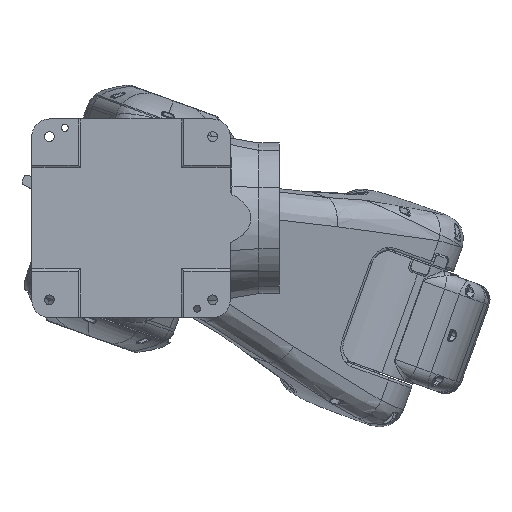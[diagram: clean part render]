
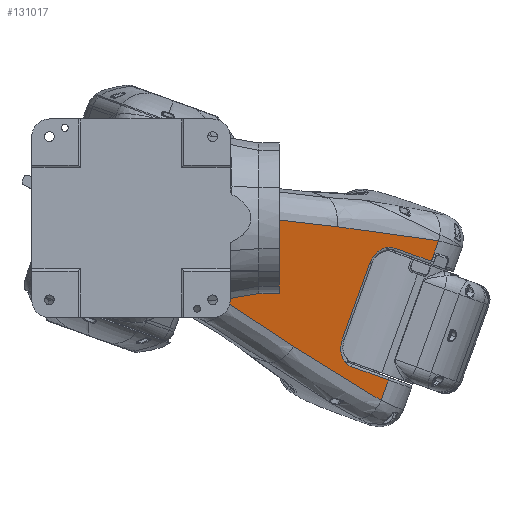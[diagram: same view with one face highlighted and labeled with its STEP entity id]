
A CAD part, front view. The second image highlights one B-rep face of the part: STEP entity #131017.
In plain terms, the highlighted planar face has unit normal (0.594, -0.775, -0.214) as drawn and (0.982, -0.188, 0) by its records, which use the part's own axes.
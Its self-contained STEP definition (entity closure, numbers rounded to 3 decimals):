
#1339 = VERTEX_POINT ( 'NONE', #69150 ) ;
#2050 = CARTESIAN_POINT ( 'NONE',  ( -7.204, 700.082, 380.356 ) ) ;
#4272 = CARTESIAN_POINT ( 'NONE',  ( -17.918, 644.038, 355.622 ) ) ;
#6263 = ORIENTED_EDGE ( 'NONE', *, *, #109266, .T. ) ;
#6711 = CARTESIAN_POINT ( 'NONE',  ( -17.918, 644.038, 212.622 ) ) ;
#7363 =( BOUNDED_CURVE ( )  B_SPLINE_CURVE ( 3, ( #26819, #77038, #109399, #108491 ),
 .UNSPECIFIED., .F., .F. ) 
 B_SPLINE_CURVE_WITH_KNOTS ( ( 4, 4 ),
 ( 1.688, 1.822 ),
 .UNSPECIFIED. ) 
 CURVE ( )  GEOMETRIC_REPRESENTATION_ITEM ( )  RATIONAL_B_SPLINE_CURVE ( ( 1., 0.999, 0.999, 1. ) ) 
 REPRESENTATION_ITEM ( '' )  );
#10586 = FACE_OUTER_BOUND ( 'NONE', #85678, .T. ) ;
#12809 = EDGE_CURVE ( 'NONE', #124880, #76747, #87875, .T. ) ;
#12930 = ORIENTED_EDGE ( 'NONE', *, *, #84356, .T. ) ;
#13997 = CARTESIAN_POINT ( 'NONE',  ( -22.889, 618.038, 329.622 ) ) ;
#14155 = ORIENTED_EDGE ( 'NONE', *, *, #94935, .F. ) ;
#14361 = VERTEX_POINT ( 'NONE', #71862 ) ;
#16911 = CARTESIAN_POINT ( 'NONE',  ( -7.204, 700.082, 380.356 ) ) ;
#17272 = ORIENTED_EDGE ( 'NONE', *, *, #27929, .F. ) ;
#18666 = CARTESIAN_POINT ( 'NONE',  ( -25.728, 603.191, 199.869 ) ) ;
#26819 = CARTESIAN_POINT ( 'NONE',  ( -55.75, 446.152, 232.427 ) ) ;
#27929 = EDGE_CURVE ( 'NONE', #67344, #100242, #121813, .T. ) ;
#30132 = CARTESIAN_POINT ( 'NONE',  ( -22.889, 618.038, 344.853 ) ) ;
#31624 =( BOUNDED_CURVE ( )  B_SPLINE_CURVE ( 3, ( #2050, #53504, #74977, #85877 ),
 .UNSPECIFIED., .F., .F. ) 
 B_SPLINE_CURVE_WITH_KNOTS ( ( 4, 4 ),
 ( 4.793, 4.963 ),
 .UNSPECIFIED. ) 
 CURVE ( )  GEOMETRIC_REPRESENTATION_ITEM ( )  RATIONAL_B_SPLINE_CURVE ( ( 1., 0.998, 0.998, 1. ) ) 
 REPRESENTATION_ITEM ( '' )  );
#31936 = CARTESIAN_POINT ( 'NONE',  ( -20.83, 628.808, 355.622 ) ) ;
#34186 = VERTEX_POINT ( 'NONE', #76502 ) ;
#35605 = CARTESIAN_POINT ( 'NONE',  ( -7.204, 700.082, 355.622 ) ) ;
#38089 = CARTESIAN_POINT ( 'NONE',  ( -22.889, 618.038, 223.392 ) ) ;
#38267 = CARTESIAN_POINT ( 'NONE',  ( -16.515, 651.38, 191.81 ) ) ;
#38669 = CARTESIAN_POINT ( 'NONE',  ( -48.676, 483.152, 340.166 ) ) ;
#38705 = CARTESIAN_POINT ( 'NONE',  ( -34.775, 555.863, 212.006 ) ) ;
#39444 = ORIENTED_EDGE ( 'NONE', *, *, #69372, .T. ) ;
#40513 = VECTOR ( 'NONE', #100798, 1000. ) ;
#43741 = EDGE_CURVE ( 'NONE', #14361, #124880, #97364, .T. ) ;
#44043 = CARTESIAN_POINT ( 'NONE',  ( -22.889, 618.038, 238.622 ) ) ;
#44921 = VERTEX_POINT ( 'NONE', #44043 ) ;
#48750 = CARTESIAN_POINT ( 'NONE',  ( -7.204, 700.082, 187.889 ) ) ;
#49166 = CARTESIAN_POINT ( 'NONE',  ( -55.75, 446.152, 335.817 ) ) ;
#50113 = ORIENTED_EDGE ( 'NONE', *, *, #73237, .T. ) ;
#50136 = CARTESIAN_POINT ( 'NONE',  ( -7.204, 700.082, 419.122 ) ) ;
#50314 = LINE ( 'NONE', #50136, #40513 ) ;
#53504 = CARTESIAN_POINT ( 'NONE',  ( -16.515, 651.38, 376.435 ) ) ;
#57759 = CARTESIAN_POINT ( 'NONE',  ( -22.889, 618.038, 238.622 ) ) ;
#57948 = CARTESIAN_POINT ( 'NONE',  ( -22.889, 618.038, 329.622 ) ) ;
#60984 =( BOUNDED_CURVE ( )  B_SPLINE_CURVE ( 3, ( #38705, #18666, #38267, #48750 ),
 .UNSPECIFIED., .F., .F. ) 
 B_SPLINE_CURVE_WITH_KNOTS ( ( 4, 4 ),
 ( 1.32, 1.49 ),
 .UNSPECIFIED. ) 
 CURVE ( )  GEOMETRIC_REPRESENTATION_ITEM ( )  RATIONAL_B_SPLINE_CURVE ( ( 1., 0.998, 0.998, 1. ) ) 
 REPRESENTATION_ITEM ( '' )  );
#62849 = DIRECTION ( 'NONE',  ( -0.188, -0.982, 0. ) ) ;
#67344 = VERTEX_POINT ( 'NONE', #16911 ) ;
#69024 = DIRECTION ( 'NONE',  ( 0., 0., 1. ) ) ;
#69150 = CARTESIAN_POINT ( 'NONE',  ( -7.204, 700.082, 212.622 ) ) ;
#69372 = EDGE_CURVE ( 'NONE', #1339, #34186, #113379, .T. ) ;
#69541 = ORIENTED_EDGE ( 'NONE', *, *, #43741, .T. ) ;
#70770 = CARTESIAN_POINT ( 'NONE',  ( -7.204, 700.082, 419.122 ) ) ;
#70880 = DIRECTION ( 'NONE',  ( -0.982, 0.188, 0. ) ) ;
#71337 = VECTOR ( 'NONE', #133174, 1000. ) ;
#71532 = CARTESIAN_POINT ( 'NONE',  ( -17.703, 645.165, 212.622 ) ) ;
#71862 = CARTESIAN_POINT ( 'NONE',  ( -34.775, 555.863, 356.238 ) ) ;
#72230 = VERTEX_POINT ( 'NONE', #4272 ) ;
#73237 = EDGE_CURVE ( 'NONE', #128637, #84783, #60984, .T. ) ;
#74372 = CARTESIAN_POINT ( 'NONE',  ( -17.918, 644.038, 355.622 ) ) ;
#74977 = CARTESIAN_POINT ( 'NONE',  ( -25.728, 603.191, 368.376 ) ) ;
#76502 = CARTESIAN_POINT ( 'NONE',  ( -17.918, 644.038, 212.622 ) ) ;
#76747 = VERTEX_POINT ( 'NONE', #114191 ) ;
#77038 = CARTESIAN_POINT ( 'NONE',  ( -48.676, 483.152, 228.078 ) ) ;
#79352 =( BOUNDED_CURVE ( )  B_SPLINE_CURVE ( 3, ( #6711, #100585, #38089, #57759 ),
 .UNSPECIFIED., .F., .F. ) 
 B_SPLINE_CURVE_WITH_KNOTS ( ( 4, 4 ),
 ( 4.712, 6.283 ),
 .UNSPECIFIED. ) 
 CURVE ( )  GEOMETRIC_REPRESENTATION_ITEM ( )  RATIONAL_B_SPLINE_CURVE ( ( 1., 0.805, 0.805, 1. ) ) 
 REPRESENTATION_ITEM ( '' )  );
#82739 = EDGE_CURVE ( 'NONE', #34186, #44921, #79352, .T. ) ;
#83386 =( BOUNDED_CURVE ( )  B_SPLINE_CURVE ( 3, ( #13997, #30132, #31936, #74372 ),
 .UNSPECIFIED., .F., .F. ) 
 B_SPLINE_CURVE_WITH_KNOTS ( ( 4, 4 ),
 ( 3.142, 4.712 ),
 .UNSPECIFIED. ) 
 CURVE ( )  GEOMETRIC_REPRESENTATION_ITEM ( )  RATIONAL_B_SPLINE_CURVE ( ( 1., 0.805, 0.805, 1. ) ) 
 REPRESENTATION_ITEM ( '' )  );
#84356 = EDGE_CURVE ( 'NONE', #72230, #100242, #87346, .T. ) ;
#84772 = EDGE_CURVE ( 'NONE', #76747, #128637, #7363, .T. ) ;
#84783 = VERTEX_POINT ( 'NONE', #118524 ) ;
#85678 = EDGE_LOOP ( 'NONE', ( #99883, #12930, #17272, #91029, #69541, #91065, #99193, #50113, #14155, #39444, #103474, #6263 ) ) ;
#85877 = CARTESIAN_POINT ( 'NONE',  ( -34.775, 555.863, 356.238 ) ) ;
#87346 = LINE ( 'NONE', #134513, #111796 ) ;
#87726 = CARTESIAN_POINT ( 'NONE',  ( -55.75, 446.152, 419.122 ) ) ;
#87875 = LINE ( 'NONE', #87726, #125449 ) ;
#90668 = EDGE_CURVE ( 'NONE', #67344, #14361, #31624, .T. ) ;
#91029 = ORIENTED_EDGE ( 'NONE', *, *, #90668, .T. ) ;
#91065 = ORIENTED_EDGE ( 'NONE', *, *, #12809, .T. ) ;
#91373 = PLANE ( 'NONE',  #127247 ) ;
#91396 = VECTOR ( 'NONE', #69024, 1000. ) ;
#92274 = DIRECTION ( 'NONE',  ( 0.188, 0.982, 0. ) ) ;
#94935 = EDGE_CURVE ( 'NONE', #1339, #84783, #50314, .T. ) ;
#97364 =( BOUNDED_CURVE ( )  B_SPLINE_CURVE ( 3, ( #122180, #101188, #38669, #49166 ),
 .UNSPECIFIED., .F., .F. ) 
 B_SPLINE_CURVE_WITH_KNOTS ( ( 4, 4 ),
 ( 4.461, 4.595 ),
 .UNSPECIFIED. ) 
 CURVE ( )  GEOMETRIC_REPRESENTATION_ITEM ( )  RATIONAL_B_SPLINE_CURVE ( ( 1., 0.999, 0.999, 1. ) ) 
 REPRESENTATION_ITEM ( '' )  );
#98653 = DIRECTION ( 'NONE',  ( 0., 0., -1. ) ) ;
#99193 = ORIENTED_EDGE ( 'NONE', *, *, #84772, .T. ) ;
#99883 = ORIENTED_EDGE ( 'NONE', *, *, #107371, .T. ) ;
#100242 = VERTEX_POINT ( 'NONE', #35605 ) ;
#100585 = CARTESIAN_POINT ( 'NONE',  ( -20.83, 628.808, 212.622 ) ) ;
#100798 = DIRECTION ( 'NONE',  ( 0., 0., -1. ) ) ;
#101188 = CARTESIAN_POINT ( 'NONE',  ( -41.674, 519.777, 346.983 ) ) ;
#103474 = ORIENTED_EDGE ( 'NONE', *, *, #82739, .T. ) ;
#106860 = VECTOR ( 'NONE', #62849, 1000. ) ;
#107371 = EDGE_CURVE ( 'NONE', #123563, #72230, #83386, .T. ) ;
#108491 = CARTESIAN_POINT ( 'NONE',  ( -34.775, 555.863, 212.006 ) ) ;
#109266 = EDGE_CURVE ( 'NONE', #44921, #123563, #117619, .T. ) ;
#109399 = CARTESIAN_POINT ( 'NONE',  ( -41.674, 519.777, 221.261 ) ) ;
#111796 = VECTOR ( 'NONE', #123624, 1000. ) ;
#113379 = LINE ( 'NONE', #71532, #106860 ) ;
#114164 = CARTESIAN_POINT ( 'NONE',  ( -7.204, 700.082, 419.122 ) ) ;
#114191 = CARTESIAN_POINT ( 'NONE',  ( -55.75, 446.152, 232.427 ) ) ;
#117619 = LINE ( 'NONE', #131456, #91396 ) ;
#118524 = CARTESIAN_POINT ( 'NONE',  ( -7.204, 700.082, 187.889 ) ) ;
#121813 = LINE ( 'NONE', #70770, #71337 ) ;
#122180 = CARTESIAN_POINT ( 'NONE',  ( -34.775, 555.863, 356.238 ) ) ;
#123563 = VERTEX_POINT ( 'NONE', #57948 ) ;
#123624 = DIRECTION ( 'NONE',  ( 0.188, 0.982, 0. ) ) ;
#124880 = VERTEX_POINT ( 'NONE', #125355 ) ;
#125355 = CARTESIAN_POINT ( 'NONE',  ( -55.75, 446.152, 335.817 ) ) ;
#125449 = VECTOR ( 'NONE', #98653, 1000. ) ;
#127247 = AXIS2_PLACEMENT_3D ( 'NONE', #114164, #70880, #92274 ) ;
#128129 = CARTESIAN_POINT ( 'NONE',  ( -34.775, 555.863, 212.006 ) ) ;
#128637 = VERTEX_POINT ( 'NONE', #128129 ) ;
#131017 = ADVANCED_FACE ( 'NONE', ( #10586 ), #91373, .F. ) ;
#131456 = CARTESIAN_POINT ( 'NONE',  ( -22.889, 618.038, 329.622 ) ) ;
#133174 = DIRECTION ( 'NONE',  ( 0., 0., -1. ) ) ;
#134513 = CARTESIAN_POINT ( 'NONE',  ( -7.204, 700.082, 355.622 ) ) ;
